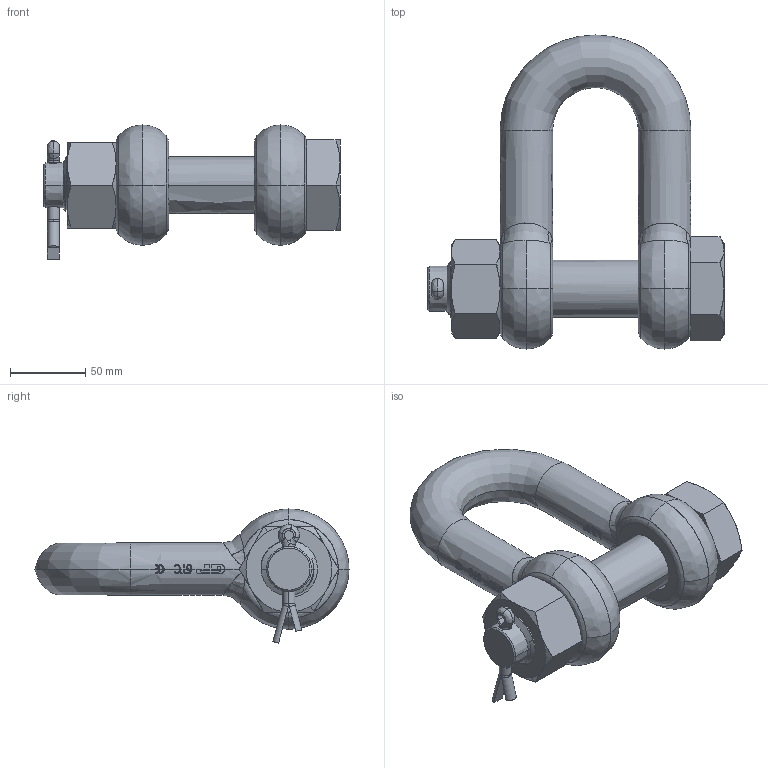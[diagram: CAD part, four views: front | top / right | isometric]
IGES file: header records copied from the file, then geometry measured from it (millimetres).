
Start section: START RECORD GO HERE.
Global section: file name: 13,5.igs; native system: Solidworks 2009      A Version 5 Release 17 ; preprocessor: Solidworks                 ; author: v.b.; organization: P4; date: 20090807.084107; units: millimetre
Bounding box: 197 x 209 x 89.22 mm (x, y, z)
Surface area: 117563.7 mm2 (no closed solid volume)
Topology: 0 solids, 0 shells, 908 faces, 5877 edges, 5869 vertices
Faces by surface type: bspline 428, plane 301, revolution 179
